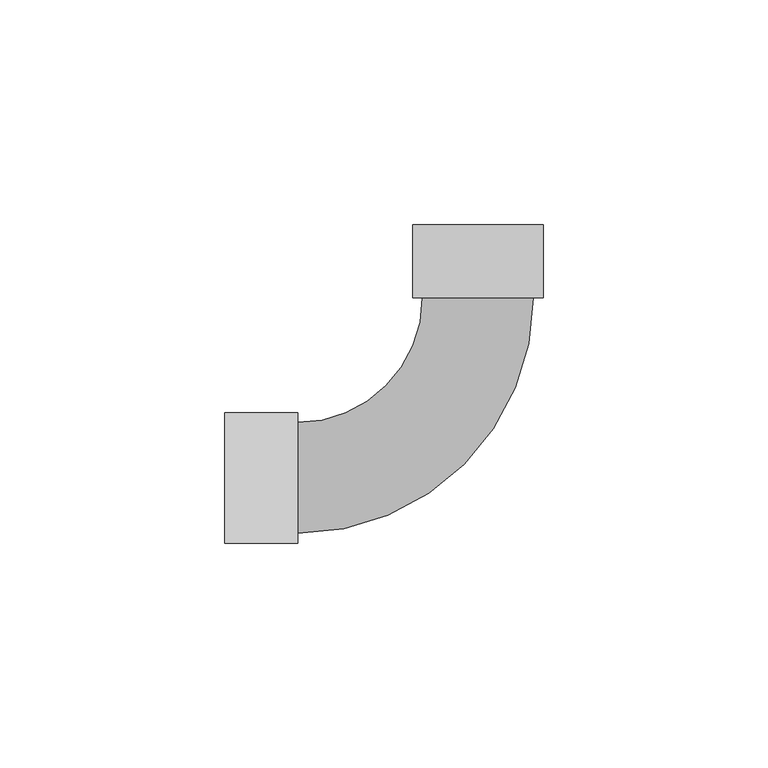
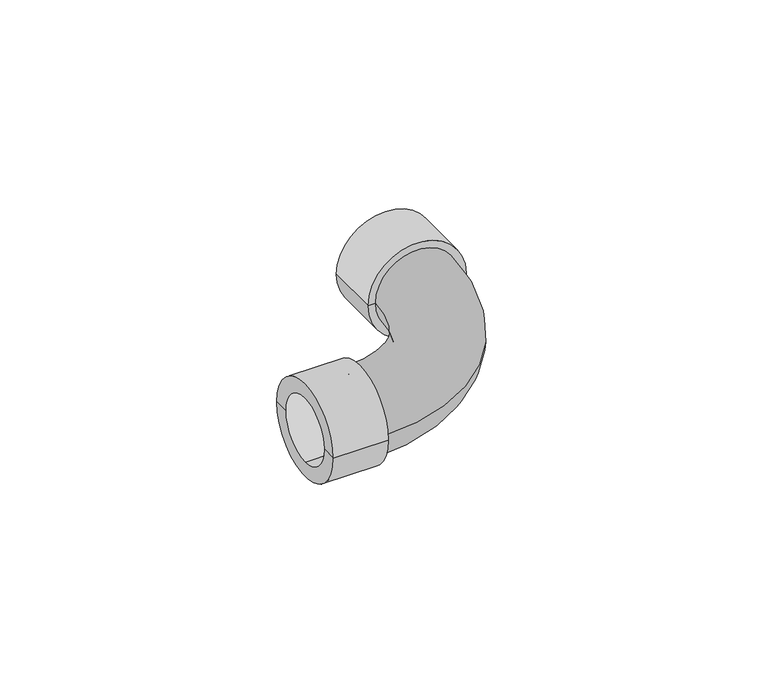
"""IFC4 building model written with IfcOpenShell, lengths in millimetres: pipe fitting geometry, PipeFitting_HTA_CPVC_Bends90° : 20mm x 90°."""

from ifc_helpers import new_model, si_unit, point, frame, origin, place, context, project, spatial, polyline, circle_curve, ellipse_curve, trimmed, source, transform, mapped, element, save
from ifc_brep_helpers import plane_surface, cylinder_surface, revolved_surface, advanced_brep


def pipe_fitting_d6497ec0(model_context):
    return source(origin(), model_context, "Body", "AdvancedBrep", [
        advanced_brep(
        [(-40.0, -12.3, 0.0), (12.3, 40.0, 0.0), (-12.3, 40.0, 0.0), (-40.0, 12.3, 0.0), (-40.0, 14.5, 0.0), (-40.0, -14.5, 0.0), (-56.2, -14.5, 0.0), (-56.2, 14.5, 0.0), (-56.2, -10.0, 0.0), (-56.2, 0.0, -10.0), (-56.2, 10.0, 0.0), (-56.2, 0.0, 10.0), (-14.5, 40.0, 0.0), (14.5, 40.0, 0.0), (14.5, 56.2, 0.0), (-14.5, 56.2, 0.0), (-10.0, 56.2, 0.0), (0.0, 56.2, -10.0), (10.0, 56.2, 0.0), (0.0, 56.2, 10.0), (0.0, 40.0, -10.0), (0.0, 40.0, 10.0), (-40.0, 0.0, -10.0), (-40.0, 0.0, 10.0)],
        [
            (0, 1, circle_curve(frame((-40.0, 40.0, 0.0), z_axis=(0.0, 0.0, 1.0), x_axis=(1.0, 0.0, 0.0)), 52.3)),
            (1, 2, circle_curve(frame((0.0, 40.0, 0.0), z_axis=(0.0, -1.0, 0.0), x_axis=(1.0, 0.0, 0.0)), 12.3)),
            (2, 3, circle_curve(frame((-40.0, 40.0, 0.0), z_axis=(0.0, 0.0, -1.0), x_axis=(1.0, 0.0, 0.0)), 27.7)),
            (3, 0, circle_curve(frame((-40.0, 0.0, 0.0), z_axis=(1.0, 0.0, 0.0), x_axis=(0.0, -1.0, 0.0)), 12.3)),
            (0, 3, circle_curve(frame((-40.0, 0.0, 0.0), z_axis=(1.0, 0.0, 0.0), x_axis=(0.0, -1.0, 0.0)), 12.3)),
            (2, 1, circle_curve(frame((0.0, 40.0, 0.0), z_axis=(0.0, -1.0, 0.0), x_axis=(1.0, 0.0, 0.0)), 12.3)),
            (4, 5, circle_curve(frame((-40.0, 0.0, 0.0), z_axis=(-1.0, 0.0, 0.0), x_axis=(0.0, -1.0, 0.0)), 14.5)),
            (5, 6),
            (6, 7, circle_curve(frame((-56.2, 0.0, 0.0), z_axis=(1.0, 0.0, 0.0), x_axis=(0.0, -1.0, 0.0)), 14.5)),
            (7, 4),
            (5, 4, circle_curve(frame((-40.0, 0.0, 0.0), z_axis=(-1.0, 0.0, 0.0), x_axis=(0.0, -1.0, 0.0)), 14.5)),
            (7, 6, circle_curve(frame((-56.2, 0.0, 0.0), z_axis=(1.0, 0.0, 0.0), x_axis=(0.0, -1.0, 0.0)), 14.5)),
            (4, 3),
            (0, 5),
            (6, 8),
            (8, 9, circle_curve(frame((-56.2, 0.0, 0.0), z_axis=(1.0, 0.0, 0.0), x_axis=(0.0, 0.0, 1.0)), 10.0)),
            (9, 10, circle_curve(frame((-56.2, 0.0, 0.0), z_axis=(1.0, 0.0, 0.0), x_axis=(0.0, 0.0, 1.0)), 10.0)),
            (10, 7),
            (10, 11, circle_curve(frame((-56.2, 0.0, 0.0), z_axis=(1.0, 0.0, 0.0), x_axis=(0.0, 0.0, 1.0)), 10.0)),
            (11, 8, circle_curve(frame((-56.2, 0.0, 0.0), z_axis=(1.0, 0.0, 0.0), x_axis=(0.0, 0.0, 1.0)), 10.0)),
            (12, 13, circle_curve(frame((0.0, 40.0, 0.0), z_axis=(0.0, -1.0, 0.0), x_axis=(-1.0, 0.0, 0.0)), 14.5)),
            (13, 1),
            (2, 12),
            (13, 12, circle_curve(frame((0.0, 40.0, 0.0), z_axis=(0.0, -1.0, 0.0), x_axis=(-1.0, 0.0, 0.0)), 14.5)),
            (14, 15, circle_curve(frame((0.0, 56.2, 0.0), z_axis=(0.0, 1.0, 0.0), x_axis=(-1.0, 0.0, 0.0)), 14.5)),
            (15, 16),
            (16, 17, circle_curve(frame((0.0, 56.2, 0.0), z_axis=(0.0, -1.0, 0.0), x_axis=(0.0, 0.0, 1.0)), 10.0)),
            (17, 18, circle_curve(frame((0.0, 56.2, 0.0), z_axis=(0.0, -1.0, 0.0), x_axis=(0.0, 0.0, 1.0)), 10.0)),
            (18, 14),
            (15, 14, circle_curve(frame((0.0, 56.2, 0.0), z_axis=(0.0, 1.0, 0.0), x_axis=(-1.0, 0.0, 0.0)), 14.5)),
            (18, 19, circle_curve(frame((0.0, 56.2, 0.0), z_axis=(0.0, -1.0, 0.0), x_axis=(0.0, 0.0, 1.0)), 10.0)),
            (19, 16, circle_curve(frame((0.0, 56.2, 0.0), z_axis=(0.0, -1.0, 0.0), x_axis=(0.0, 0.0, 1.0)), 10.0)),
            (12, 15),
            (14, 13),
            (20, 21, circle_curve(frame((0.0, 40.0, 0.0), z_axis=(0.0, 1.0, 0.0), x_axis=(0.0, 0.0, 1.0)), 10.0)),
            (21, 20, circle_curve(frame((0.0, 40.0, 0.0), z_axis=(0.0, 1.0, 0.0), x_axis=(0.0, 0.0, 1.0)), 10.0)),
            (21, 19),
            (17, 20),
            (22, 23, circle_curve(frame((-40.0, 0.0, 0.0), z_axis=(-1.0, 0.0, 0.0), x_axis=(0.0, 0.0, 1.0)), 10.0)),
            (23, 22, circle_curve(frame((-40.0, 0.0, 0.0), z_axis=(-1.0, 0.0, 0.0), x_axis=(0.0, 0.0, 1.0)), 10.0)),
            (23, 11),
            (9, 22),
        ],
        [
            revolved_surface(trimmed(ellipse_curve(frame((0.0, 40.0, 0.0), z_axis=(0.0, 1.0, 0.0), x_axis=(1.0, 0.0, 0.0)), 12.3, 12.3), [point((-12.3, 40.0, 0.0))], [point((12.3, 40.0, 0.0))], True, "CARTESIAN"), (-40.0, 40.0, 0.0), (0.0, 0.0, -1.0)),
            revolved_surface(trimmed(ellipse_curve(frame((0.0, 40.0, 0.0), z_axis=(0.0, 1.0, 0.0), x_axis=(1.0, 0.0, 0.0)), 12.3, 12.3), [point((12.3, 40.0, 0.0))], [point((-12.3, 40.0, 0.0))], True, "CARTESIAN"), (-40.0, 40.0, 0.0), (0.0, 0.0, -1.0)),
            cylinder_surface(frame((-40.0, 0.0, 0.0), z_axis=(1.0, 0.0, 0.0), x_axis=(0.0, -1.0, 0.0)), 14.5),
            plane_surface(frame((-40.0, 0.0, 0.0), z_axis=(1.0, 0.0, 0.0), x_axis=(0.0, -1.0, 0.0))),
            plane_surface(frame((-56.2, 0.0, 0.0), z_axis=(-1.0, 0.0, 0.0), x_axis=(0.0, -1.0, 0.0))),
            plane_surface(frame((0.0, 40.0, 0.0), z_axis=(0.0, -1.0, 0.0), x_axis=(-1.0, 0.0, 0.0))),
            plane_surface(frame((0.0, 56.2, 0.0), z_axis=(0.0, 1.0, 0.0), x_axis=(-1.0, 0.0, 0.0))),
            cylinder_surface(frame((0.0, 56.2, 0.0), z_axis=(0.0, -1.0, 0.0), x_axis=(-1.0, 0.0, 0.0)), 14.5),
            plane_surface(frame((0.0, 40.0, 10.0), z_axis=(0.0, 1.0, 0.0), x_axis=(-1.0, 0.0, 0.0))),
            revolved_surface(polyline([(0.0, 40.0, 10.0), (0.0, 56.2, 10.0)]), (0.0, 56.2, 0.0), (0.0, -1.0, 0.0)),
            plane_surface(frame((-40.0, 0.0, 10.0), z_axis=(-1.0, 0.0, 0.0), x_axis=(0.0, -1.0, 0.0))),
            revolved_surface(polyline([(-40.0, 0.0, 10.0), (-56.2, 0.0, 10.0)]), (-56.2, 0.0, 0.0), (1.0, 0.0, 0.0)),
        ],
        [
            (0, [[1, 2, 3, 4]]),
            (1, [[-1, 5, -3, 6]]),
            (2, [[7, 8, 9, 10]]),
            (2, [[-8, 11, -10, 12]]),
            (3, [[-7, 13, -5, 14]]),
            (3, [[-11, -14, -4, -13]]),
            (4, [[-9, 15, 16, 17, 18]]),
            (4, [[-12, -18, 19, 20, -15]]),
            (5, [[21, 22, -6, 23]]),
            (5, [[24, -23, -2, -22]]),
            (6, [[25, 26, 27, 28, 29]]),
            (6, [[30, -29, 31, 32, -26]]),
            (7, [[-21, 33, -25, 34]]),
            (7, [[-24, -34, -30, -33]]),
            (8, [[35, 36]]),
            (9, [[-36, 37, -31, -28, 38]]),
            (9, [[-35, -38, -27, -32, -37]]),
            (10, [[39, 40]]),
            (11, [[-40, 41, -19, -17, 42]]),
            (11, [[-39, -42, -16, -20, -41]]),
        ],
    ),
    ])


if __name__ == "__main__":
    model = new_model("IFC4")
    model_context = context("Model", 3, world=origin())
    ifc_project = project(units=[si_unit("LENGTHUNIT", "METRE", prefix="MILLI")], contexts=[model_context])
    site = spatial("IfcSite", under=ifc_project)
    building = spatial("IfcBuilding", under=site)
    placement = place(None, origin())
    pipe_fitting_shape = pipe_fitting_d6497ec0(model_context)
    element("IfcPipeFitting", 1, ObjectType="PipeFitting_HTA_CPVC_Bends90° : 20mm x 90°", at=placement, inside=building, context=model_context, shape_type="MappedRepresentation", body=[
        mapped(pipe_fitting_shape, transform((0.0, 0.0, 0.0), x_axis=(1.0, 0.0, 0.0), y_axis=(0.0, 1.0, 0.0), z_axis=(0.0, 0.0, 1.0))),
    ])
    save(model, "model.ifc")
